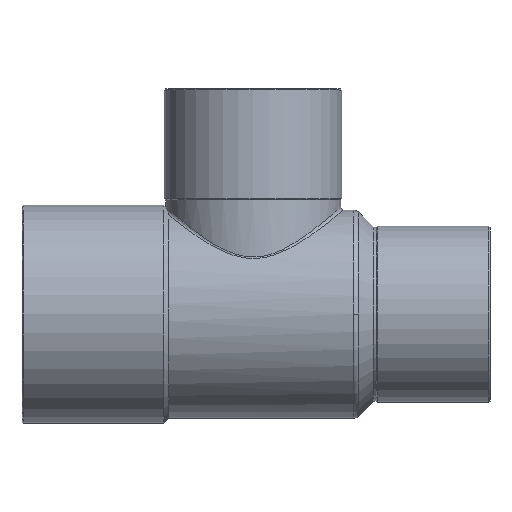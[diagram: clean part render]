
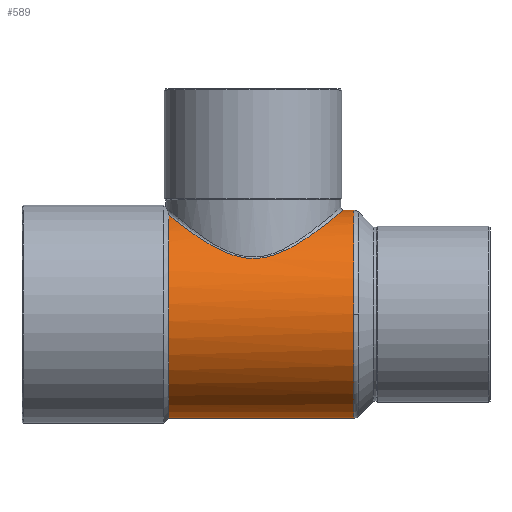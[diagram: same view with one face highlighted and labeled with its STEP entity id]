
A CAD part, top view. The second image highlights one B-rep face of the part: STEP entity #589.
In plain terms, the highlighted cylindrical face has radius 18 mm (diameter 36 mm), a partial arc.
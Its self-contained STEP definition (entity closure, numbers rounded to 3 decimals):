
#451=CARTESIAN_POINT('',(-14.628,-18.,0.));
#452=VERTEX_POINT('',#451);
#459=CARTESIAN_POINT('',(-14.628,17.167,5.413));
#460=VERTEX_POINT('',#459);
#461=CARTESIAN_POINT('',(-14.628,0.0,0.0));
#462=DIRECTION('',(1.0,0.0,0.0));
#463=DIRECTION('',(0.0,1.0,0.0));
#464=AXIS2_PLACEMENT_3D('',#461,#462,#463);
#465=CIRCLE('',#464,18.);
#466=EDGE_CURVE('',#460,#452,#465,.T.);
#522=CARTESIAN_POINT('',(1.618,0.0,0.0));
#523=DIRECTION('',(1.0,0.0,0.0));
#524=DIRECTION('',(0.0,1.0,0.0));
#525=AXIS2_PLACEMENT_3D('',#522,#523,#524);
#526=CYLINDRICAL_SURFACE('',#525,18.);
#527=CARTESIAN_POINT('',(15.65,18.,0.));
#528=VERTEX_POINT('',#527);
#529=CARTESIAN_POINT('',(17.449,18.,0.0));
#530=VERTEX_POINT('',#529);
#531=CARTESIAN_POINT('',(15.65,18.,0.));
#532=DIRECTION('',(1.0,0.0,0.));
#533=VECTOR('',#532,1.799);
#534=LINE('',#531,#533);
#535=EDGE_CURVE('',#528,#530,#534,.T.);
#536=ORIENTED_EDGE('',*,*,#535,.F.);
#537=CARTESIAN_POINT('',(-14.628,17.167,5.413));
#538=CARTESIAN_POINT('',(-13.897,16.578,7.282));
#539=CARTESIAN_POINT('',(-12.828,15.725,8.917));
#540=CARTESIAN_POINT('',(-11.54,14.772,10.285));
#541=CARTESIAN_POINT('',(-10.115,13.718,11.799));
#542=CARTESIAN_POINT('',(-8.437,12.533,12.989));
#543=CARTESIAN_POINT('',(-6.515,11.503,13.845));
#544=CARTESIAN_POINT('',(-4.435,10.388,14.771));
#545=CARTESIAN_POINT('',(-1.953,9.468,15.31));
#546=CARTESIAN_POINT('',(0.592,9.616,15.216));
#547=CARTESIAN_POINT('',(3.596,9.791,15.106));
#548=CARTESIAN_POINT('',(6.285,11.262,14.183));
#549=CARTESIAN_POINT('',(8.516,12.68,12.776));
#550=CARTESIAN_POINT('',(10.489,13.935,11.53));
#551=CARTESIAN_POINT('',(12.167,15.224,9.871));
#552=CARTESIAN_POINT('',(13.43,16.214,7.818));
#553=CARTESIAN_POINT('',(14.241,16.849,6.499));
#554=CARTESIAN_POINT('',(14.882,17.371,4.987));
#555=CARTESIAN_POINT('',(15.257,17.678,3.392));
#556=CARTESIAN_POINT('',(15.515,17.888,2.293));
#557=CARTESIAN_POINT('',(15.65,18.,1.144));
#558=CARTESIAN_POINT('',(15.65,18.,0.));
#559=B_SPLINE_CURVE_WITH_KNOTS('',3,(#537,#538,#539,#540,#541,#542,#543,#544,#545,#546,#547,#548,#549,#550,#551,#552,#553,#554,#555,#556,#557,#558),.UNSPECIFIED.,.F.,.U.,(4,3,3,3,3,3,3,4),(10.497,11.135,11.841,12.605,13.506,14.304,14.817,15.169),.UNSPECIFIED.);
#560=EDGE_CURVE('',#460,#528,#559,.T.);
#561=ORIENTED_EDGE('',*,*,#560,.F.);
#562=ORIENTED_EDGE('',*,*,#466,.T.);
#563=CARTESIAN_POINT('',(17.449,-18.,0.));
#564=VERTEX_POINT('',#563);
#565=CARTESIAN_POINT('',(17.449,-18.,0.));
#566=DIRECTION('',(-1.0,0.0,0.0));
#567=VECTOR('',#566,32.077);
#568=LINE('',#565,#567);
#569=EDGE_CURVE('',#564,#452,#568,.T.);
#570=ORIENTED_EDGE('',*,*,#569,.F.);
#571=CARTESIAN_POINT('',(17.449,0.,18.));
#572=VERTEX_POINT('',#571);
#573=CARTESIAN_POINT('',(17.449,0.0,0.0));
#574=DIRECTION('',(1.0,0.0,0.0));
#575=DIRECTION('',(0.0,-1.0,0.0));
#576=AXIS2_PLACEMENT_3D('',#573,#574,#575);
#577=CIRCLE('',#576,18.);
#578=EDGE_CURVE('',#572,#564,#577,.T.);
#579=ORIENTED_EDGE('',*,*,#578,.F.);
#580=CARTESIAN_POINT('',(17.449,0.0,0.0));
#581=DIRECTION('',(1.0,0.0,0.0));
#582=DIRECTION('',(0.0,-1.0,0.0));
#583=AXIS2_PLACEMENT_3D('',#580,#581,#582);
#584=CIRCLE('',#583,18.);
#585=EDGE_CURVE('',#530,#572,#584,.T.);
#586=ORIENTED_EDGE('',*,*,#585,.F.);
#587=EDGE_LOOP('',(#536,#561,#562,#570,#579,#586));
#588=FACE_OUTER_BOUND('',#587,.T.);
#589=ADVANCED_FACE('',(#588),#526,.T.);
